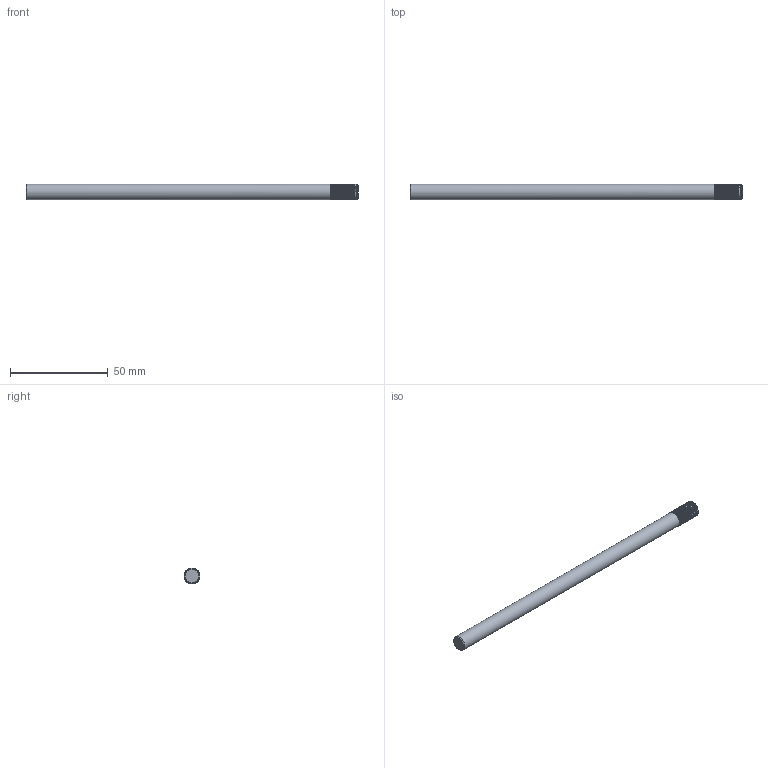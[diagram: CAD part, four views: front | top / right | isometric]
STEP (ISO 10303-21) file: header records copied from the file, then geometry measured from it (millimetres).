
FILE_DESCRIPTION (( 'STEP AP214' ), '1' );
FILE_NAME ('N30118.step', '2024-12-03T16:27:01', ( '' ), ( '' ), 'SwSTEP 2.0', 'SolidWorks 2023', '' );
FILE_SCHEMA (( 'AUTOMOTIVE_DESIGN' ));
Length unit declared in the file: millimetre
Products named in the file (1): N30118
Bounding box: 170 x 8.1 x 8.1 mm (x, y, z)
Volume: 8543.2 mm3; surface area: 4438.6 mm2
Topology: 1 solids, 1 shells, 230 faces, 593 edges, 365 vertices
Faces by surface type: plane 182, cylinder 46, cone 2
Full cylindrical faces by diameter (mm): 8 x1
Entity records: 6992 total; most frequent: CARTESIAN_POINT 1452, ORIENTED_EDGE 1176, DIRECTION 1143, EDGE_CURVE 588, AXIS2_PLACEMENT_3D 414, VERTEX_POINT 363, LINE 315, VECTOR 315
